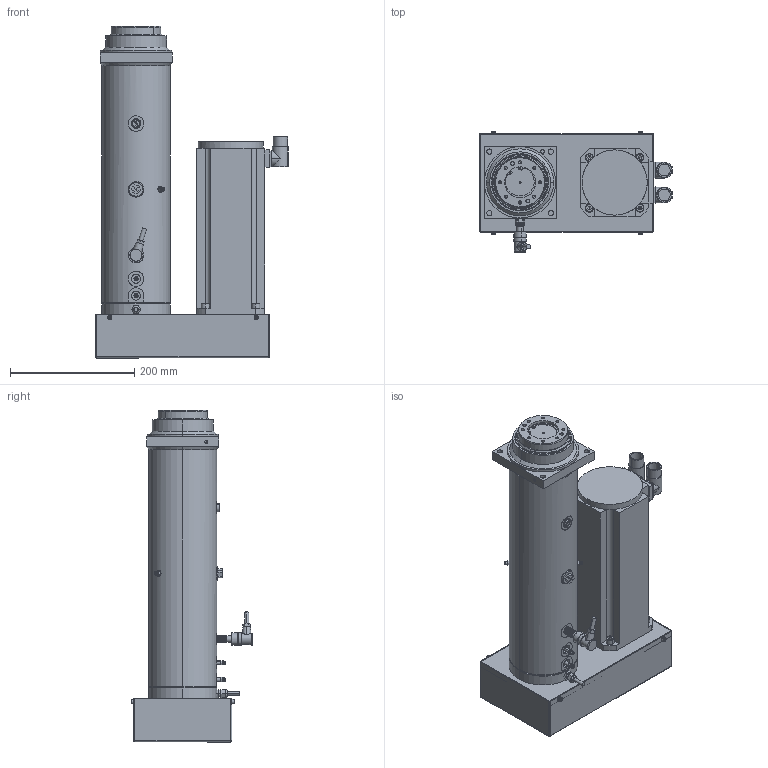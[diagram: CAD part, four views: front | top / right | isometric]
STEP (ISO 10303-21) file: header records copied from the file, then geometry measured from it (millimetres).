
FILE_DESCRIPTION (( 'STEP AP203' ), '1' );
FILE_NAME ('374014.STEP', '2018-11-08T07:20:28', ( '' ), ( '' ), 'SwSTEP 2.0', 'SolidWorks 2016', '' );
FILE_SCHEMA (( 'CONFIG_CONTROL_DESIGN' ));
Length unit declared in the file: millimetre
Products named in the file (1): 374014
Bounding box: 310.55 x 196.25 x 534.5 mm (x, y, z)
Volume: 6387865.9 mm3; surface area: 970065.3 mm2
Topology: 26 solids, 27 shells, 1077 faces, 2560 edges, 1578 vertices
Faces by surface type: cylinder 474, plane 422, cone 143, torus 28, sphere 8, bspline 2
Entity records: 35784 total; most frequent: CARTESIAN_POINT 10593, DIRECTION 5508, ORIENTED_EDGE 4948, EDGE_CURVE 2474, AXIS2_PLACEMENT_3D 2150, VERTEX_POINT 1576, EDGE_LOOP 1326, LINE 1208
